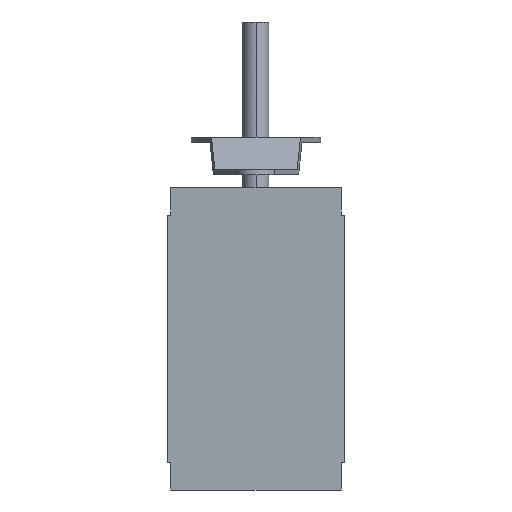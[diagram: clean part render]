
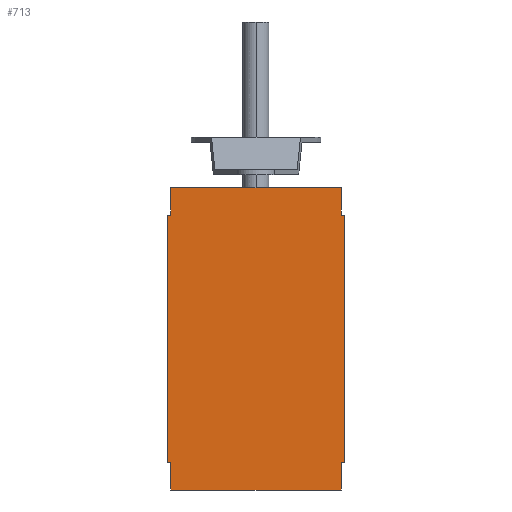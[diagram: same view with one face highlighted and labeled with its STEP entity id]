
A CAD part, left-side view. The second image highlights one B-rep face of the part: STEP entity #713.
In plain terms, the highlighted planar face has unit normal (-1, 0, 0).
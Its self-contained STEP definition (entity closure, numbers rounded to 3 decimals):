
#5 = LINE ( 'NONE', #1698, #1305 ) ;
#18 = CARTESIAN_POINT ( 'NONE',  ( -103., 68., -95.25 ) ) ;
#48 = CARTESIAN_POINT ( 'NONE',  ( -103., 65.5, 116.25 ) ) ;
#82 = CARTESIAN_POINT ( 'NONE',  ( -103., 65.5, 95.25 ) ) ;
#97 = ORIENTED_EDGE ( 'NONE', *, *, #507, .T. ) ;
#110 = VECTOR ( 'NONE', #1856, 1000. ) ;
#136 = VERTEX_POINT ( 'NONE', #1327 ) ;
#140 = VECTOR ( 'NONE', #803, 1000. ) ;
#172 = LINE ( 'NONE', #2247, #110 ) ;
#202 = DIRECTION ( 'NONE',  ( 0., 0., -1. ) ) ;
#218 = CARTESIAN_POINT ( 'NONE',  ( -103., 65.5, 95.25 ) ) ;
#233 = VERTEX_POINT ( 'NONE', #632 ) ;
#279 = VERTEX_POINT ( 'NONE', #787 ) ;
#288 = LINE ( 'NONE', #1496, #1774 ) ;
#300 = EDGE_CURVE ( 'NONE', #1679, #1937, #2016, .T. ) ;
#316 = CARTESIAN_POINT ( 'NONE',  ( -103., 65.5, -95.25 ) ) ;
#328 = DIRECTION ( 'NONE',  ( 0., -1., 0. ) ) ;
#364 = CARTESIAN_POINT ( 'NONE',  ( -103., -65.5, -116.25 ) ) ;
#428 = CARTESIAN_POINT ( 'NONE',  ( -103., -68., -95.25 ) ) ;
#436 = ORIENTED_EDGE ( 'NONE', *, *, #300, .T. ) ;
#492 = VECTOR ( 'NONE', #202, 1000. ) ;
#497 = CARTESIAN_POINT ( 'NONE',  ( -103., 68., 95.25 ) ) ;
#500 = CARTESIAN_POINT ( 'NONE',  ( -103., -65.5, 116.25 ) ) ;
#507 = EDGE_CURVE ( 'NONE', #233, #1048, #760, .T. ) ;
#528 = ORIENTED_EDGE ( 'NONE', *, *, #1089, .F. ) ;
#576 = EDGE_CURVE ( 'NONE', #279, #2045, #1666, .T. ) ;
#578 = DIRECTION ( 'NONE',  ( 0., 1., 0. ) ) ;
#610 = DIRECTION ( 'NONE',  ( 0., 1., 0. ) ) ;
#632 = CARTESIAN_POINT ( 'NONE',  ( -103., 65.5, -116.25 ) ) ;
#678 = ORIENTED_EDGE ( 'NONE', *, *, #1043, .F. ) ;
#696 = CARTESIAN_POINT ( 'NONE',  ( -103., -65.5, 95.25 ) ) ;
#705 = ORIENTED_EDGE ( 'NONE', *, *, #1039, .T. ) ;
#713 = ADVANCED_FACE ( 'NONE', ( #727 ), #886, .F. ) ;
#727 = FACE_OUTER_BOUND ( 'NONE', #1710, .T. ) ;
#760 = LINE ( 'NONE', #1016, #2351 ) ;
#781 = LINE ( 'NONE', #18, #2239 ) ;
#784 = VERTEX_POINT ( 'NONE', #428 ) ;
#787 = CARTESIAN_POINT ( 'NONE',  ( -103., -65.5, 116.25 ) ) ;
#803 = DIRECTION ( 'NONE',  ( 0., 0., -1. ) ) ;
#804 = EDGE_CURVE ( 'NONE', #1025, #784, #1398, .T. ) ;
#886 = PLANE ( 'NONE',  #2142 ) ;
#899 = CARTESIAN_POINT ( 'NONE',  ( -103., 65.5, 116.25 ) ) ;
#930 = CARTESIAN_POINT ( 'NONE',  ( -103., 65.5, 116.25 ) ) ;
#937 = VERTEX_POINT ( 'NONE', #1791 ) ;
#997 = ORIENTED_EDGE ( 'NONE', *, *, #2091, .T. ) ;
#1016 = CARTESIAN_POINT ( 'NONE',  ( -103., 65.5, -116.25 ) ) ;
#1025 = VERTEX_POINT ( 'NONE', #2198 ) ;
#1039 = EDGE_CURVE ( 'NONE', #1937, #1798, #781, .T. ) ;
#1043 = EDGE_CURVE ( 'NONE', #136, #279, #1577, .T. ) ;
#1048 = VERTEX_POINT ( 'NONE', #364 ) ;
#1089 = EDGE_CURVE ( 'NONE', #2045, #1025, #172, .T. ) ;
#1123 = ORIENTED_EDGE ( 'NONE', *, *, #576, .F. ) ;
#1153 = CARTESIAN_POINT ( 'NONE',  ( -103., -68., -95.25 ) ) ;
#1189 = CARTESIAN_POINT ( 'NONE',  ( -103., 68., -95.25 ) ) ;
#1240 = VECTOR ( 'NONE', #1998, 1000. ) ;
#1287 = EDGE_CURVE ( 'NONE', #136, #1679, #1337, .T. ) ;
#1305 = VECTOR ( 'NONE', #578, 1000. ) ;
#1327 = CARTESIAN_POINT ( 'NONE',  ( -103., 65.5, 116.25 ) ) ;
#1337 = LINE ( 'NONE', #1700, #140 ) ;
#1353 = DIRECTION ( 'NONE',  ( 0., 0., -1. ) ) ;
#1366 = VECTOR ( 'NONE', #1353, 1000. ) ;
#1398 = LINE ( 'NONE', #1153, #492 ) ;
#1430 = ORIENTED_EDGE ( 'NONE', *, *, #2332, .T. ) ;
#1477 = DIRECTION ( 'NONE',  ( 0., 0., -1. ) ) ;
#1496 = CARTESIAN_POINT ( 'NONE',  ( -103., -65.5, 116.25 ) ) ;
#1573 = CARTESIAN_POINT ( 'NONE',  ( -103., 65.5, -95.25 ) ) ;
#1577 = LINE ( 'NONE', #930, #1240 ) ;
#1592 = ORIENTED_EDGE ( 'NONE', *, *, #804, .F. ) ;
#1607 = EDGE_CURVE ( 'NONE', #784, #937, #5, .T. ) ;
#1629 = ORIENTED_EDGE ( 'NONE', *, *, #1287, .T. ) ;
#1666 = LINE ( 'NONE', #500, #2212 ) ;
#1679 = VERTEX_POINT ( 'NONE', #218 ) ;
#1698 = CARTESIAN_POINT ( 'NONE',  ( -103., -65.5, -95.25 ) ) ;
#1700 = CARTESIAN_POINT ( 'NONE',  ( -103., 65.5, 116.25 ) ) ;
#1710 = EDGE_LOOP ( 'NONE', ( #97, #2348, #1958, #1592, #528, #1123, #678, #1629, #436, #705, #997, #1430 ) ) ;
#1774 = VECTOR ( 'NONE', #1863, 1000. ) ;
#1786 = DIRECTION ( 'NONE',  ( 0., 0., -1. ) ) ;
#1791 = CARTESIAN_POINT ( 'NONE',  ( -103., -65.5, -95.25 ) ) ;
#1798 = VERTEX_POINT ( 'NONE', #1189 ) ;
#1822 = DIRECTION ( 'NONE',  ( 1., 0., 0. ) ) ;
#1856 = DIRECTION ( 'NONE',  ( 0., -1., 0. ) ) ;
#1863 = DIRECTION ( 'NONE',  ( 0., 0., -1. ) ) ;
#1868 = VECTOR ( 'NONE', #328, 1000. ) ;
#1869 = VERTEX_POINT ( 'NONE', #1573 ) ;
#1934 = DIRECTION ( 'NONE',  ( 0., -1., 0. ) ) ;
#1937 = VERTEX_POINT ( 'NONE', #497 ) ;
#1956 = VECTOR ( 'NONE', #610, 1000. ) ;
#1958 = ORIENTED_EDGE ( 'NONE', *, *, #1607, .F. ) ;
#1998 = DIRECTION ( 'NONE',  ( 0., -1., 0. ) ) ;
#2016 = LINE ( 'NONE', #82, #1956 ) ;
#2045 = VERTEX_POINT ( 'NONE', #696 ) ;
#2060 = DIRECTION ( 'NONE',  ( 0., 0., -1. ) ) ;
#2091 = EDGE_CURVE ( 'NONE', #1798, #1869, #2344, .T. ) ;
#2142 = AXIS2_PLACEMENT_3D ( 'NONE', #899, #1822, #2060 ) ;
#2198 = CARTESIAN_POINT ( 'NONE',  ( -103., -68., 95.25 ) ) ;
#2212 = VECTOR ( 'NONE', #1786, 1000. ) ;
#2239 = VECTOR ( 'NONE', #1477, 1000. ) ;
#2247 = CARTESIAN_POINT ( 'NONE',  ( -103., -65.5, 95.25 ) ) ;
#2264 = EDGE_CURVE ( 'NONE', #937, #1048, #288, .T. ) ;
#2318 = LINE ( 'NONE', #48, #1366 ) ;
#2332 = EDGE_CURVE ( 'NONE', #1869, #233, #2318, .T. ) ;
#2344 = LINE ( 'NONE', #316, #1868 ) ;
#2348 = ORIENTED_EDGE ( 'NONE', *, *, #2264, .F. ) ;
#2351 = VECTOR ( 'NONE', #1934, 1000. ) ;
